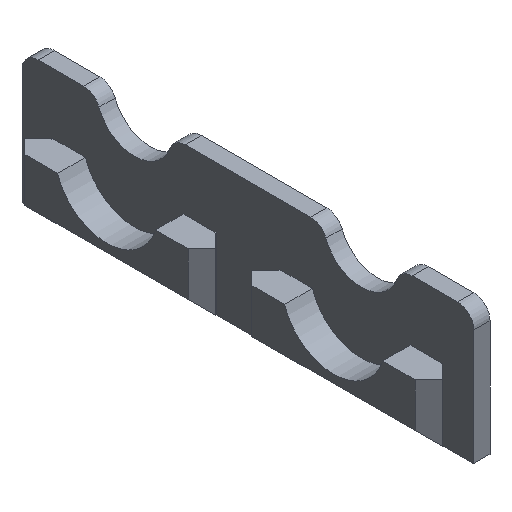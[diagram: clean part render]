
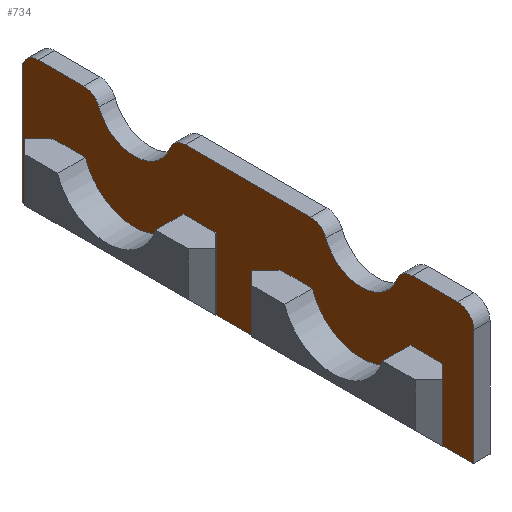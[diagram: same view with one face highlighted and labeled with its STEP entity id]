
A CAD part, isometric view. The second image highlights one B-rep face of the part: STEP entity #734.
In plain terms, the highlighted planar face has unit normal (-1, 0, 0).
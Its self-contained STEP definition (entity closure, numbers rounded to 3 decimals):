
#15=FACE_BOUND('',#115,.T.);
#16=FACE_BOUND('',#116,.T.);
#35=PLANE('',#806);
#74=FACE_OUTER_BOUND('',#114,.T.);
#114=EDGE_LOOP('',(#605,#606,#607,#608,#609,#610,#611,#612,#613,#614,#615,
#616,#617,#618));
#115=EDGE_LOOP('',(#619,#620,#621,#622,#623,#624));
#116=EDGE_LOOP('',(#625,#626,#627,#628,#629,#630));
#131=LINE('',#1039,#215);
#136=LINE('',#1054,#220);
#141=LINE('',#1063,#225);
#143=LINE('',#1066,#227);
#147=LINE('',#1088,#231);
#152=LINE('',#1098,#236);
#154=LINE('',#1102,#238);
#162=LINE('',#1121,#246);
#175=LINE('',#1147,#259);
#180=LINE('',#1172,#264);
#185=LINE('',#1182,#269);
#187=LINE('',#1186,#271);
#190=LINE('',#1191,#274);
#191=LINE('',#1192,#275);
#192=LINE('',#1194,#276);
#193=LINE('',#1197,#277);
#215=VECTOR('',#833,10.);
#220=VECTOR('',#846,10.);
#225=VECTOR('',#853,10.);
#227=VECTOR('',#857,10.);
#231=VECTOR('',#881,10.);
#236=VECTOR('',#888,10.);
#238=VECTOR('',#892,10.);
#246=VECTOR('',#908,10.);
#259=VECTOR('',#935,10.);
#264=VECTOR('',#960,10.);
#269=VECTOR('',#967,10.);
#271=VECTOR('',#971,10.);
#274=VECTOR('',#976,10.);
#275=VECTOR('',#977,10.);
#276=VECTOR('',#978,10.);
#277=VECTOR('',#981,10.);
#297=CIRCLE('',#762,3.);
#300=CIRCLE('',#767,3.);
#302=CIRCLE('',#773,3.);
#303=CIRCLE('',#775,7.);
#306=CIRCLE('',#779,3.);
#308=CIRCLE('',#785,9.5);
#310=CIRCLE('',#796,3.);
#311=CIRCLE('',#798,7.);
#314=CIRCLE('',#802,3.);
#315=CIRCLE('',#807,9.5);
#317=VERTEX_POINT('',#1029);
#318=VERTEX_POINT('',#1030);
#321=VERTEX_POINT('',#1038);
#325=VERTEX_POINT('',#1047);
#326=VERTEX_POINT('',#1049);
#327=VERTEX_POINT('',#1053);
#330=VERTEX_POINT('',#1061);
#332=VERTEX_POINT('',#1070);
#333=VERTEX_POINT('',#1074);
#336=VERTEX_POINT('',#1082);
#337=VERTEX_POINT('',#1086);
#338=VERTEX_POINT('',#1087);
#342=VERTEX_POINT('',#1097);
#343=VERTEX_POINT('',#1101);
#346=VERTEX_POINT('',#1108);
#348=VERTEX_POINT('',#1112);
#359=VERTEX_POINT('',#1152);
#360=VERTEX_POINT('',#1154);
#361=VERTEX_POINT('',#1158);
#364=VERTEX_POINT('',#1166);
#365=VERTEX_POINT('',#1170);
#366=VERTEX_POINT('',#1171);
#370=VERTEX_POINT('',#1181);
#371=VERTEX_POINT('',#1185);
#373=VERTEX_POINT('',#1193);
#374=VERTEX_POINT('',#1195);
#385=EDGE_CURVE('',#317,#318,#297,.T.);
#389=EDGE_CURVE('',#321,#318,#131,.T.);
#394=EDGE_CURVE('',#325,#326,#300,.T.);
#396=EDGE_CURVE('',#327,#326,#136,.T.);
#401=EDGE_CURVE('',#317,#330,#141,.T.);
#403=EDGE_CURVE('',#327,#330,#143,.F.);
#405=EDGE_CURVE('',#321,#332,#302,.T.);
#407=EDGE_CURVE('',#333,#332,#303,.T.);
#411=EDGE_CURVE('',#333,#336,#306,.T.);
#413=EDGE_CURVE('',#337,#338,#147,.T.);
#418=EDGE_CURVE('',#342,#337,#152,.T.);
#420=EDGE_CURVE('',#343,#342,#154,.T.);
#426=EDGE_CURVE('',#346,#348,#308,.T.);
#430=EDGE_CURVE('',#348,#343,#162,.T.);
#443=EDGE_CURVE('',#338,#346,#175,.T.);
#446=EDGE_CURVE('',#359,#360,#310,.T.);
#448=EDGE_CURVE('',#361,#360,#311,.T.);
#452=EDGE_CURVE('',#361,#364,#314,.T.);
#454=EDGE_CURVE('',#365,#366,#180,.T.);
#459=EDGE_CURVE('',#370,#365,#185,.T.);
#461=EDGE_CURVE('',#371,#370,#187,.T.);
#464=EDGE_CURVE('',#325,#364,#190,.T.);
#465=EDGE_CURVE('',#359,#336,#191,.T.);
#466=EDGE_CURVE('',#366,#373,#192,.T.);
#467=EDGE_CURVE('',#373,#374,#315,.T.);
#468=EDGE_CURVE('',#374,#371,#193,.T.);
#605=ORIENTED_EDGE('',*,*,#403,.F.);
#606=ORIENTED_EDGE('',*,*,#396,.T.);
#607=ORIENTED_EDGE('',*,*,#394,.F.);
#608=ORIENTED_EDGE('',*,*,#464,.T.);
#609=ORIENTED_EDGE('',*,*,#452,.F.);
#610=ORIENTED_EDGE('',*,*,#448,.T.);
#611=ORIENTED_EDGE('',*,*,#446,.F.);
#612=ORIENTED_EDGE('',*,*,#465,.T.);
#613=ORIENTED_EDGE('',*,*,#411,.F.);
#614=ORIENTED_EDGE('',*,*,#407,.T.);
#615=ORIENTED_EDGE('',*,*,#405,.F.);
#616=ORIENTED_EDGE('',*,*,#389,.T.);
#617=ORIENTED_EDGE('',*,*,#385,.F.);
#618=ORIENTED_EDGE('',*,*,#401,.T.);
#619=ORIENTED_EDGE('',*,*,#418,.T.);
#620=ORIENTED_EDGE('',*,*,#413,.T.);
#621=ORIENTED_EDGE('',*,*,#443,.T.);
#622=ORIENTED_EDGE('',*,*,#426,.T.);
#623=ORIENTED_EDGE('',*,*,#430,.T.);
#624=ORIENTED_EDGE('',*,*,#420,.T.);
#625=ORIENTED_EDGE('',*,*,#459,.T.);
#626=ORIENTED_EDGE('',*,*,#454,.T.);
#627=ORIENTED_EDGE('',*,*,#466,.T.);
#628=ORIENTED_EDGE('',*,*,#467,.T.);
#629=ORIENTED_EDGE('',*,*,#468,.T.);
#630=ORIENTED_EDGE('',*,*,#461,.T.);
#734=ADVANCED_FACE('',(#74,#15,#16),#35,.F.);
#762=AXIS2_PLACEMENT_3D('',#1031,#825,#826);
#767=AXIS2_PLACEMENT_3D('',#1050,#841,#842);
#773=AXIS2_PLACEMENT_3D('',#1071,#862,#863);
#775=AXIS2_PLACEMENT_3D('',#1075,#867,#868);
#779=AXIS2_PLACEMENT_3D('',#1083,#876,#877);
#785=AXIS2_PLACEMENT_3D('',#1114,#901,#902);
#796=AXIS2_PLACEMENT_3D('',#1155,#941,#942);
#798=AXIS2_PLACEMENT_3D('',#1159,#946,#947);
#802=AXIS2_PLACEMENT_3D('',#1167,#955,#956);
#806=AXIS2_PLACEMENT_3D('',#1190,#974,#975);
#807=AXIS2_PLACEMENT_3D('',#1196,#979,#980);
#825=DIRECTION('center_axis',(1.,0.,0.));
#826=DIRECTION('ref_axis',(0.,0.707,0.707));
#833=DIRECTION('',(0.,1.,0.));
#841=DIRECTION('center_axis',(1.,0.,0.));
#842=DIRECTION('ref_axis',(0.,-0.707,0.707));
#846=DIRECTION('',(0.,0.,1.));
#853=DIRECTION('',(0.,0.,-1.));
#857=DIRECTION('',(0.,-1.,0.));
#862=DIRECTION('center_axis',(1.,0.,0.));
#863=DIRECTION('ref_axis',(0.,-0.572,0.82));
#867=DIRECTION('center_axis',(1.,0.,0.));
#868=DIRECTION('ref_axis',(0.,1.,0.));
#876=DIRECTION('center_axis',(1.,0.,0.));
#877=DIRECTION('ref_axis',(0.,0.572,0.82));
#881=DIRECTION('',(0.,0.,1.));
#888=DIRECTION('',(0.,1.,0.));
#892=DIRECTION('',(0.,0.,-1.));
#901=DIRECTION('center_axis',(-1.,0.,0.));
#902=DIRECTION('ref_axis',(0.,1.,0.));
#908=DIRECTION('',(0.,-1.,0.));
#935=DIRECTION('',(0.,-1.,0.));
#941=DIRECTION('center_axis',(1.,0.,0.));
#942=DIRECTION('ref_axis',(0.,-0.572,0.82));
#946=DIRECTION('center_axis',(1.,0.,0.));
#947=DIRECTION('ref_axis',(0.,1.,0.));
#955=DIRECTION('center_axis',(1.,0.,0.));
#956=DIRECTION('ref_axis',(0.,0.572,0.82));
#960=DIRECTION('',(0.,0.,1.));
#967=DIRECTION('',(0.,1.,0.));
#971=DIRECTION('',(0.,0.,-1.));
#974=DIRECTION('center_axis',(1.,0.,0.));
#975=DIRECTION('ref_axis',(0.,1.,0.));
#976=DIRECTION('',(0.,1.,0.));
#977=DIRECTION('',(0.,1.,0.));
#978=DIRECTION('',(0.,-1.,0.));
#979=DIRECTION('center_axis',(-1.,0.,0.));
#980=DIRECTION('ref_axis',(0.,1.,0.));
#981=DIRECTION('',(0.,-1.,0.));
#1029=CARTESIAN_POINT('',(96.15,62.8,-150.76));
#1030=CARTESIAN_POINT('',(96.15,59.8,-147.76));
#1031=CARTESIAN_POINT('Origin',(96.15,59.8,-150.76));
#1038=CARTESIAN_POINT('',(96.15,51.382,-147.76));
#1039=CARTESIAN_POINT('',(96.15,21.2,-147.76));
#1047=CARTESIAN_POINT('',(96.15,-17.8,-147.76));
#1049=CARTESIAN_POINT('',(96.15,-20.8,-150.76));
#1050=CARTESIAN_POINT('Origin',(96.15,-17.8,-150.76));
#1053=CARTESIAN_POINT('',(96.15,-20.8,-172.15));
#1054=CARTESIAN_POINT('',(96.15,-20.8,-153.851));
#1061=CARTESIAN_POINT('',(96.15,62.8,-172.15));
#1063=CARTESIAN_POINT('',(96.15,62.8,-166.033));
#1066=CARTESIAN_POINT('',(96.15,-10.4,-172.15));
#1070=CARTESIAN_POINT('',(96.15,48.567,-149.722));
#1071=CARTESIAN_POINT('Origin',(96.15,51.382,-150.76));
#1074=CARTESIAN_POINT('',(96.15,35.433,-149.722));
#1075=CARTESIAN_POINT('Origin',(96.15,42.,-147.298));
#1082=CARTESIAN_POINT('',(96.15,32.618,-147.76));
#1083=CARTESIAN_POINT('Origin',(96.15,32.618,-150.76));
#1086=CARTESIAN_POINT('',(96.15,57.1,-172.15));
#1087=CARTESIAN_POINT('',(96.15,57.1,-159.));
#1088=CARTESIAN_POINT('',(96.15,57.1,-166.046));
#1097=CARTESIAN_POINT('',(96.15,26.9,-172.15));
#1098=CARTESIAN_POINT('',(96.15,42.,-172.15));
#1101=CARTESIAN_POINT('',(96.15,26.9,-159.));
#1102=CARTESIAN_POINT('',(96.15,26.9,-159.471));
#1108=CARTESIAN_POINT('',(96.15,51.062,-159.));
#1112=CARTESIAN_POINT('',(96.15,32.938,-159.));
#1114=CARTESIAN_POINT('Origin',(96.15,42.,-156.15));
#1121=CARTESIAN_POINT('',(96.15,42.,-159.));
#1147=CARTESIAN_POINT('',(96.15,42.,-159.));
#1152=CARTESIAN_POINT('',(96.15,9.382,-147.76));
#1154=CARTESIAN_POINT('',(96.15,6.567,-149.722));
#1155=CARTESIAN_POINT('Origin',(96.15,9.382,-150.76));
#1158=CARTESIAN_POINT('',(96.15,-6.567,-149.722));
#1159=CARTESIAN_POINT('Origin',(96.15,0.,-147.298));
#1166=CARTESIAN_POINT('',(96.15,-9.382,-147.76));
#1167=CARTESIAN_POINT('Origin',(96.15,-9.382,-150.76));
#1170=CARTESIAN_POINT('',(96.15,15.1,-172.15));
#1171=CARTESIAN_POINT('',(96.15,15.1,-159.));
#1172=CARTESIAN_POINT('',(96.15,15.1,-166.046));
#1181=CARTESIAN_POINT('',(96.15,-15.1,-172.15));
#1182=CARTESIAN_POINT('',(96.15,0.,-172.15));
#1185=CARTESIAN_POINT('',(96.15,-15.1,-159.));
#1186=CARTESIAN_POINT('',(96.15,-15.1,-159.471));
#1190=CARTESIAN_POINT('Origin',(96.15,-15.3,-160.));
#1191=CARTESIAN_POINT('',(96.15,-20.8,-147.76));
#1192=CARTESIAN_POINT('',(96.15,21.2,-147.76));
#1193=CARTESIAN_POINT('',(96.15,9.062,-159.));
#1194=CARTESIAN_POINT('',(96.15,0.,-159.));
#1195=CARTESIAN_POINT('',(96.15,-9.062,-159.));
#1196=CARTESIAN_POINT('Origin',(96.15,0.,-156.15));
#1197=CARTESIAN_POINT('',(96.15,0.,-159.));
